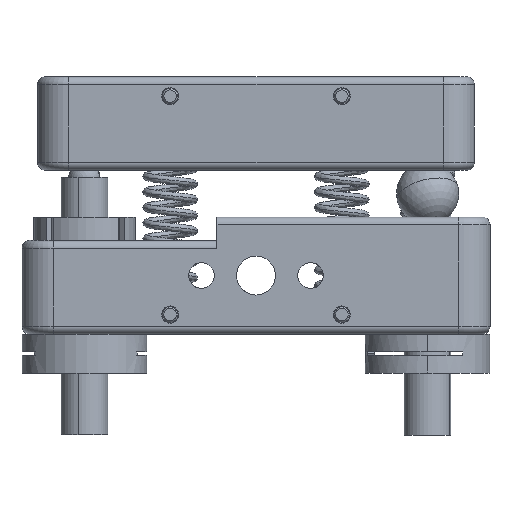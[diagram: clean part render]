
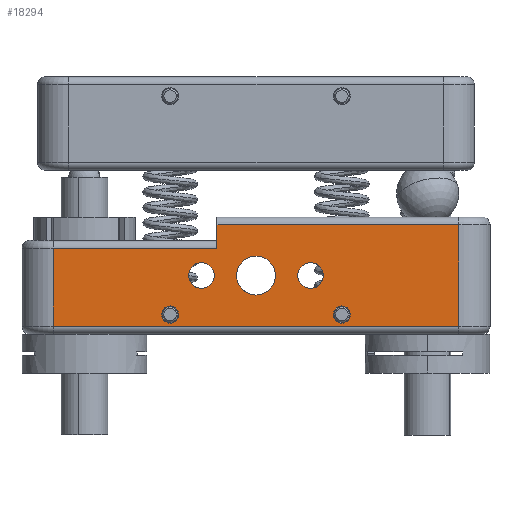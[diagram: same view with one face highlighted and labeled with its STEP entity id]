
A CAD part, left-side view. The second image highlights one B-rep face of the part: STEP entity #18294.
In plain terms, the highlighted planar face has unit normal (-1, 0, 0).
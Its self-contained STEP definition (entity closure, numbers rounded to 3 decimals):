
#21 = CARTESIAN_POINT ( 'NONE',  ( -31.266, 7.345, 9.15 ) ) ;
#213 = LINE ( 'NONE', #22394, #5007 ) ;
#373 = ORIENTED_EDGE ( 'NONE', *, *, #16283, .F. ) ;
#515 = ORIENTED_EDGE ( 'NONE', *, *, #8877, .T. ) ;
#668 = DIRECTION ( 'NONE',  ( 0., 0., 1. ) ) ;
#915 = ORIENTED_EDGE ( 'NONE', *, *, #17051, .F. ) ;
#1052 = VECTOR ( 'NONE', #9024, 1000. ) ;
#1363 = LINE ( 'NONE', #16307, #20431 ) ;
#1753 = CARTESIAN_POINT ( 'NONE',  ( -31.266, -10.655, 3.6 ) ) ;
#1881 = CARTESIAN_POINT ( 'NONE',  ( -31.266, 11.345, 2.5 ) ) ;
#2099 = VERTEX_POINT ( 'NONE', #10334 ) ;
#3056 = VERTEX_POINT ( 'NONE', #5150 ) ;
#3063 = EDGE_LOOP ( 'NONE', ( #23225, #15968, #515, #3490, #3126, #4281 ) ) ;
#3111 = DIRECTION ( 'NONE',  ( -1., 0., 0. ) ) ;
#3126 = ORIENTED_EDGE ( 'NONE', *, *, #23533, .F. ) ;
#3401 = CARTESIAN_POINT ( 'NONE',  ( -31.266, 30.345, 15. ) ) ;
#3483 = ORIENTED_EDGE ( 'NONE', *, *, #9445, .F. ) ;
#3490 = ORIENTED_EDGE ( 'NONE', *, *, #15583, .T. ) ;
#3576 = CARTESIAN_POINT ( 'NONE',  ( -31.266, 30.345, 1. ) ) ;
#3669 = VERTEX_POINT ( 'NONE', #10866 ) ;
#3702 = DIRECTION ( 'NONE',  ( 0., 0., 1. ) ) ;
#3762 = VERTEX_POINT ( 'NONE', #1753 ) ;
#3773 = CIRCLE ( 'NONE', #9679, 2.5 ) ;
#3774 = DIRECTION ( 'NONE',  ( -1., 0., 0. ) ) ;
#3842 = ORIENTED_EDGE ( 'NONE', *, *, #20046, .F. ) ;
#3967 = CIRCLE ( 'NONE', #15077, 1.1 ) ;
#4281 = ORIENTED_EDGE ( 'NONE', *, *, #12794, .T. ) ;
#4905 = CARTESIAN_POINT ( 'NONE',  ( -31.266, 0.345, 7.5 ) ) ;
#4961 = FACE_BOUND ( 'NONE', #9220, .T. ) ;
#5007 = VECTOR ( 'NONE', #7549, 1000. ) ;
#5150 = CARTESIAN_POINT ( 'NONE',  ( -31.266, 11.345, 1.4 ) ) ;
#5197 = CIRCLE ( 'NONE', #9134, 2.5 ) ;
#5215 = CIRCLE ( 'NONE', #11066, 1.1 ) ;
#5270 = CARTESIAN_POINT ( 'NONE',  ( -31.266, 0.345, 10. ) ) ;
#5997 = ORIENTED_EDGE ( 'NONE', *, *, #10140, .F. ) ;
#6074 = VERTEX_POINT ( 'NONE', #6338 ) ;
#6338 = CARTESIAN_POINT ( 'NONE',  ( -31.266, -25.655, 1. ) ) ;
#6374 = VERTEX_POINT ( 'NONE', #6751 ) ;
#6570 = CARTESIAN_POINT ( 'NONE',  ( -31.266, 7.345, 7.5 ) ) ;
#6751 = CARTESIAN_POINT ( 'NONE',  ( -31.266, -6.655, 9.15 ) ) ;
#6789 = CARTESIAN_POINT ( 'NONE',  ( -31.266, -6.655, 7.5 ) ) ;
#6793 = DIRECTION ( 'NONE',  ( 0., 0., 1. ) ) ;
#6963 = ORIENTED_EDGE ( 'NONE', *, *, #21519, .F. ) ;
#7136 = CARTESIAN_POINT ( 'NONE',  ( -31.266, 26.345, 11. ) ) ;
#7159 = PLANE ( 'NONE',  #12188 ) ;
#7266 = VERTEX_POINT ( 'NONE', #16696 ) ;
#7344 = EDGE_CURVE ( 'NONE', #11320, #19225, #213, .T. ) ;
#7535 = CARTESIAN_POINT ( 'NONE',  ( -31.266, 26.345, 1. ) ) ;
#7549 = DIRECTION ( 'NONE',  ( 0., 0., -1. ) ) ;
#7580 = FACE_OUTER_BOUND ( 'NONE', #3063, .T. ) ;
#7943 = CARTESIAN_POINT ( 'NONE',  ( -31.266, 11.345, 2.5 ) ) ;
#8028 = AXIS2_PLACEMENT_3D ( 'NONE', #21772, #10657, #23649 ) ;
#8177 = FACE_BOUND ( 'NONE', #22490, .T. ) ;
#8211 = EDGE_CURVE ( 'NONE', #3056, #19749, #22728, .T. ) ;
#8458 = DIRECTION ( 'NONE',  ( 0., 0., 1. ) ) ;
#8653 = DIRECTION ( 'NONE',  ( 0., 0., 1. ) ) ;
#8877 = EDGE_CURVE ( 'NONE', #6074, #14737, #11389, .T. ) ;
#9024 = DIRECTION ( 'NONE',  ( 0., 1., 0. ) ) ;
#9042 = DIRECTION ( 'NONE',  ( 0., 0., -1. ) ) ;
#9068 = AXIS2_PLACEMENT_3D ( 'NONE', #6789, #19790, #8653 ) ;
#9134 = AXIS2_PLACEMENT_3D ( 'NONE', #14165, #3111, #16030 ) ;
#9220 = EDGE_LOOP ( 'NONE', ( #373, #22588 ) ) ;
#9287 = CIRCLE ( 'NONE', #8028, 1.65 ) ;
#9289 = CARTESIAN_POINT ( 'NONE',  ( -31.266, -10.655, 2.5 ) ) ;
#9445 = EDGE_CURVE ( 'NONE', #2099, #15934, #21550, .T. ) ;
#9492 = CARTESIAN_POINT ( 'NONE',  ( -31.266, 5.345, 14. ) ) ;
#9679 = AXIS2_PLACEMENT_3D ( 'NONE', #4905, #17885, #6793 ) ;
#9757 = CARTESIAN_POINT ( 'NONE',  ( -31.266, 26.345, 11. ) ) ;
#9803 = EDGE_LOOP ( 'NONE', ( #915, #3483 ) ) ;
#9811 = DIRECTION ( 'NONE',  ( 0., 0., 1. ) ) ;
#10140 = EDGE_CURVE ( 'NONE', #19749, #3056, #16093, .T. ) ;
#10257 = LINE ( 'NONE', #7136, #1052 ) ;
#10334 = CARTESIAN_POINT ( 'NONE',  ( -31.266, 7.345, 5.85 ) ) ;
#10586 = DIRECTION ( 'NONE',  ( 0., 0., 1. ) ) ;
#10657 = DIRECTION ( 'NONE',  ( -1., 0., 0. ) ) ;
#10866 = CARTESIAN_POINT ( 'NONE',  ( -31.266, 5.345, 14. ) ) ;
#11037 = CARTESIAN_POINT ( 'NONE',  ( -31.266, -6.655, 5.85 ) ) ;
#11066 = AXIS2_PLACEMENT_3D ( 'NONE', #9289, #22265, #11171 ) ;
#11171 = DIRECTION ( 'NONE',  ( 0., 0., 1. ) ) ;
#11320 = VERTEX_POINT ( 'NONE', #9757 ) ;
#11389 = LINE ( 'NONE', #21688, #21266 ) ;
#11693 = DIRECTION ( 'NONE',  ( -1., 0., 0. ) ) ;
#12188 = AXIS2_PLACEMENT_3D ( 'NONE', #3401, #20167, #9042 ) ;
#12208 = VECTOR ( 'NONE', #22445, 1000. ) ;
#12540 = FACE_BOUND ( 'NONE', #9803, .T. ) ;
#12794 = EDGE_CURVE ( 'NONE', #15023, #11320, #10257, .T. ) ;
#13306 = ORIENTED_EDGE ( 'NONE', *, *, #8211, .F. ) ;
#13325 = EDGE_LOOP ( 'NONE', ( #23772, #6963 ) ) ;
#13433 = ORIENTED_EDGE ( 'NONE', *, *, #21547, .F. ) ;
#14111 = AXIS2_PLACEMENT_3D ( 'NONE', #14840, #3774, #16698 ) ;
#14165 = CARTESIAN_POINT ( 'NONE',  ( -31.266, 0.345, 7.5 ) ) ;
#14737 = VERTEX_POINT ( 'NONE', #21093 ) ;
#14764 = DIRECTION ( 'NONE',  ( -1., 0., 0. ) ) ;
#14840 = CARTESIAN_POINT ( 'NONE',  ( -31.266, 7.345, 7.5 ) ) ;
#15023 = VERTEX_POINT ( 'NONE', #19177 ) ;
#15056 = CIRCLE ( 'NONE', #9068, 1.65 ) ;
#15077 = AXIS2_PLACEMENT_3D ( 'NONE', #22801, #11693, #668 ) ;
#15457 = EDGE_LOOP ( 'NONE', ( #3842, #13433 ) ) ;
#15583 = EDGE_CURVE ( 'NONE', #14737, #3669, #16435, .T. ) ;
#15934 = VERTEX_POINT ( 'NONE', #21 ) ;
#15968 = ORIENTED_EDGE ( 'NONE', *, *, #21714, .T. ) ;
#16030 = DIRECTION ( 'NONE',  ( 0., 0., 1. ) ) ;
#16093 = CIRCLE ( 'NONE', #22078, 1.1 ) ;
#16283 = EDGE_CURVE ( 'NONE', #3762, #7266, #3967, .T. ) ;
#16307 = CARTESIAN_POINT ( 'NONE',  ( -31.266, 5.345, 12. ) ) ;
#16435 = LINE ( 'NONE', #9492, #21410 ) ;
#16696 = CARTESIAN_POINT ( 'NONE',  ( -31.266, -10.655, 1.4 ) ) ;
#16698 = DIRECTION ( 'NONE',  ( 0., 0., 1. ) ) ;
#17000 = VERTEX_POINT ( 'NONE', #5270 ) ;
#17051 = EDGE_CURVE ( 'NONE', #15934, #2099, #17188, .T. ) ;
#17089 = LINE ( 'NONE', #3576, #12208 ) ;
#17188 = CIRCLE ( 'NONE', #14111, 1.65 ) ;
#17452 = FACE_BOUND ( 'NONE', #13325, .T. ) ;
#17885 = DIRECTION ( 'NONE',  ( -1., 0., 0. ) ) ;
#18017 = FACE_BOUND ( 'NONE', #15457, .T. ) ;
#18294 = ADVANCED_FACE ( 'NONE', ( #4961, #8177, #17452, #12540, #18017, #7580 ), #7159, .F. ) ;
#19177 = CARTESIAN_POINT ( 'NONE',  ( -31.266, 5.345, 11. ) ) ;
#19225 = VERTEX_POINT ( 'NONE', #7535 ) ;
#19580 = DIRECTION ( 'NONE',  ( -1., 0., 0. ) ) ;
#19595 = EDGE_CURVE ( 'NONE', #7266, #3762, #5215, .T. ) ;
#19749 = VERTEX_POINT ( 'NONE', #22676 ) ;
#19790 = DIRECTION ( 'NONE',  ( -1., 0., 0. ) ) ;
#20046 = EDGE_CURVE ( 'NONE', #6374, #22958, #9287, .T. ) ;
#20167 = DIRECTION ( 'NONE',  ( 1., 0., 0. ) ) ;
#20431 = VECTOR ( 'NONE', #21932, 1000. ) ;
#20609 = DIRECTION ( 'NONE',  ( 0., 1., 0. ) ) ;
#20916 = DIRECTION ( 'NONE',  ( -1., 0., 0. ) ) ;
#20956 = EDGE_CURVE ( 'NONE', #17000, #23490, #3773, .T. ) ;
#21093 = CARTESIAN_POINT ( 'NONE',  ( -31.266, -25.655, 14. ) ) ;
#21266 = VECTOR ( 'NONE', #10586, 1000. ) ;
#21410 = VECTOR ( 'NONE', #20609, 1000. ) ;
#21519 = EDGE_CURVE ( 'NONE', #23490, #17000, #5197, .T. ) ;
#21547 = EDGE_CURVE ( 'NONE', #22958, #6374, #15056, .T. ) ;
#21550 = CIRCLE ( 'NONE', #22460, 1.65 ) ;
#21688 = CARTESIAN_POINT ( 'NONE',  ( -31.266, -25.655, 15. ) ) ;
#21714 = EDGE_CURVE ( 'NONE', #19225, #6074, #17089, .T. ) ;
#21772 = CARTESIAN_POINT ( 'NONE',  ( -31.266, -6.655, 7.5 ) ) ;
#21932 = DIRECTION ( 'NONE',  ( 0., 0., 1. ) ) ;
#22078 = AXIS2_PLACEMENT_3D ( 'NONE', #7943, #20916, #9811 ) ;
#22265 = DIRECTION ( 'NONE',  ( -1., 0., 0. ) ) ;
#22394 = CARTESIAN_POINT ( 'NONE',  ( -31.266, 26.345, 15. ) ) ;
#22445 = DIRECTION ( 'NONE',  ( 0., -1., 0. ) ) ;
#22460 = AXIS2_PLACEMENT_3D ( 'NONE', #6570, #19580, #8458 ) ;
#22490 = EDGE_LOOP ( 'NONE', ( #5997, #13306 ) ) ;
#22588 = ORIENTED_EDGE ( 'NONE', *, *, #19595, .F. ) ;
#22676 = CARTESIAN_POINT ( 'NONE',  ( -31.266, 11.345, 3.6 ) ) ;
#22728 = CIRCLE ( 'NONE', #23830, 1.1 ) ;
#22801 = CARTESIAN_POINT ( 'NONE',  ( -31.266, -10.655, 2.5 ) ) ;
#22958 = VERTEX_POINT ( 'NONE', #11037 ) ;
#23225 = ORIENTED_EDGE ( 'NONE', *, *, #7344, .T. ) ;
#23490 = VERTEX_POINT ( 'NONE', #23648 ) ;
#23533 = EDGE_CURVE ( 'NONE', #15023, #3669, #1363, .T. ) ;
#23648 = CARTESIAN_POINT ( 'NONE',  ( -31.266, 0.345, 5. ) ) ;
#23649 = DIRECTION ( 'NONE',  ( 0., 0., 1. ) ) ;
#23772 = ORIENTED_EDGE ( 'NONE', *, *, #20956, .F. ) ;
#23830 = AXIS2_PLACEMENT_3D ( 'NONE', #1881, #14764, #3702 ) ;
